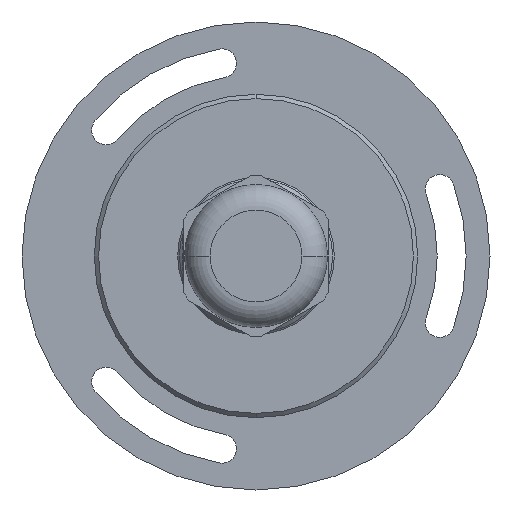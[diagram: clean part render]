
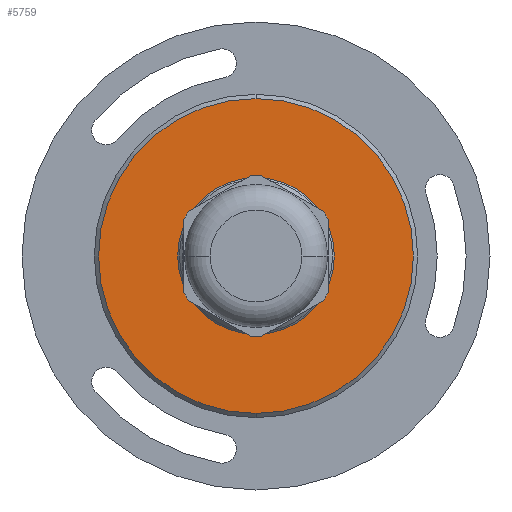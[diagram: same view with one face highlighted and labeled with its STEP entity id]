
A CAD part, front view. The second image highlights one B-rep face of the part: STEP entity #5759.
In plain terms, the highlighted planar face has unit normal (0, -1, 0).
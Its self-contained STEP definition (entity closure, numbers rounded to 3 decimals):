
#244 = EDGE_LOOP ( 'NONE', ( #9208, #9027 ) ) ;
#405 = CIRCLE ( 'NONE', #12634, 18.5 ) ;
#1008 = DIRECTION ( 'NONE',  ( 0., 0., -1. ) ) ;
#2573 = ORIENTED_EDGE ( 'NONE', *, *, #3187, .T. ) ;
#3029 = CIRCLE ( 'NONE', #16511, 18.5 ) ;
#3187 = EDGE_CURVE ( 'NONE', #3427, #9174, #10119, .T. ) ;
#3365 = AXIS2_PLACEMENT_3D ( 'NONE', #6976, #18060, #9714 ) ;
#3427 = VERTEX_POINT ( 'NONE', #9021 ) ;
#3695 = CARTESIAN_POINT ( 'NONE',  ( 0., -13.5, 0. ) ) ;
#4250 = ORIENTED_EDGE ( 'NONE', *, *, #12234, .T. ) ;
#4854 = AXIS2_PLACEMENT_3D ( 'NONE', #7045, #12567, #5723 ) ;
#5100 = DIRECTION ( 'NONE',  ( 0., -1., 0. ) ) ;
#5110 = EDGE_LOOP ( 'NONE', ( #2573, #4250 ) ) ;
#5440 = DIRECTION ( 'NONE',  ( 0., 1., 0. ) ) ;
#5723 = DIRECTION ( 'NONE',  ( 0., 0., -1. ) ) ;
#5759 = ADVANCED_FACE ( 'NONE', ( #10637, #11731 ), #12388, .T. ) ;
#6624 = EDGE_CURVE ( 'NONE', #13521, #14241, #3029, .T. ) ;
#6976 = CARTESIAN_POINT ( 'NONE',  ( 0., -13.5, 0. ) ) ;
#7045 = CARTESIAN_POINT ( 'NONE',  ( 0., -13.5, 0. ) ) ;
#8857 = CIRCLE ( 'NONE', #14664, 9.2 ) ;
#9021 = CARTESIAN_POINT ( 'NONE',  ( 0., -13.5, 9.2 ) ) ;
#9027 = ORIENTED_EDGE ( 'NONE', *, *, #16554, .T. ) ;
#9174 = VERTEX_POINT ( 'NONE', #17912 ) ;
#9208 = ORIENTED_EDGE ( 'NONE', *, *, #6624, .T. ) ;
#9714 = DIRECTION ( 'NONE',  ( 0., 0., -1. ) ) ;
#10119 = CIRCLE ( 'NONE', #3365, 9.2 ) ;
#10637 = FACE_OUTER_BOUND ( 'NONE', #244, .T. ) ;
#11042 = CARTESIAN_POINT ( 'NONE',  ( 0., -13.5, 18.5 ) ) ;
#11731 = FACE_BOUND ( 'NONE', #5110, .T. ) ;
#12224 = DIRECTION ( 'NONE',  ( 0., 0., -1. ) ) ;
#12234 = EDGE_CURVE ( 'NONE', #9174, #3427, #8857, .T. ) ;
#12343 = CARTESIAN_POINT ( 'NONE',  ( 0., -13.5, 0. ) ) ;
#12388 = PLANE ( 'NONE',  #4854 ) ;
#12567 = DIRECTION ( 'NONE',  ( 0., -1., 0. ) ) ;
#12634 = AXIS2_PLACEMENT_3D ( 'NONE', #16250, #17658, #16382 ) ;
#13521 = VERTEX_POINT ( 'NONE', #11042 ) ;
#14241 = VERTEX_POINT ( 'NONE', #17057 ) ;
#14664 = AXIS2_PLACEMENT_3D ( 'NONE', #12343, #5440, #12224 ) ;
#16250 = CARTESIAN_POINT ( 'NONE',  ( 0., -13.5, 0. ) ) ;
#16382 = DIRECTION ( 'NONE',  ( 0., 0., -1. ) ) ;
#16511 = AXIS2_PLACEMENT_3D ( 'NONE', #3695, #5100, #1008 ) ;
#16554 = EDGE_CURVE ( 'NONE', #14241, #13521, #405, .T. ) ;
#17057 = CARTESIAN_POINT ( 'NONE',  ( 0., -13.5, -18.5 ) ) ;
#17658 = DIRECTION ( 'NONE',  ( 0., -1., 0. ) ) ;
#17912 = CARTESIAN_POINT ( 'NONE',  ( 0., -13.5, -9.2 ) ) ;
#18060 = DIRECTION ( 'NONE',  ( 0., 1., 0. ) ) ;
